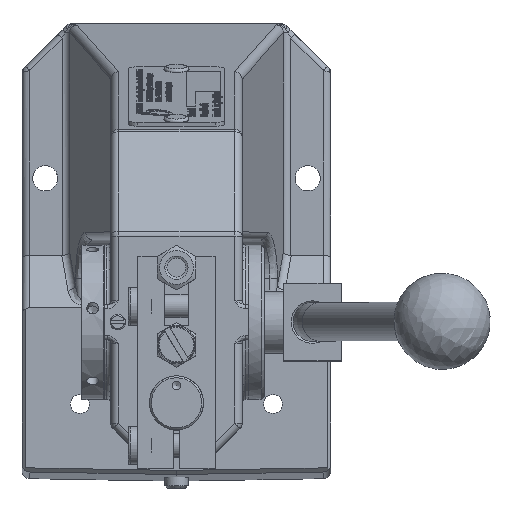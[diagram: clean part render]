
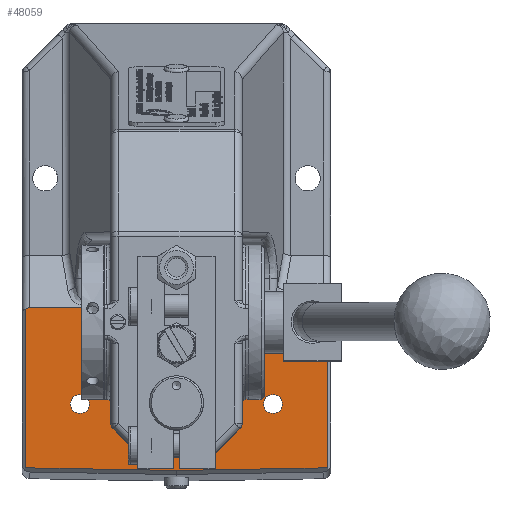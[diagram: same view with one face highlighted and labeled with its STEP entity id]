
A CAD part, top view. The second image highlights one B-rep face of the part: STEP entity #48059.
In plain terms, the highlighted planar face has unit normal (0, 0, 1).
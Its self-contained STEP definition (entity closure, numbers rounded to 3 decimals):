
#176=ELLIPSE('',#49757,3.178,2.);
#200=ELLIPSE('',#49874,3.178,2.);
#7051=LINE('',#85381,#11361);
#7055=LINE('',#85391,#11365);
#7058=LINE('',#85399,#11368);
#7109=LINE('',#86452,#11419);
#7111=LINE('',#86459,#11421);
#11361=VECTOR('',#57276,39.006);
#11365=VECTOR('',#57284,39.006);
#11368=VECTOR('',#57291,40.999);
#11419=VECTOR('',#57580,76.);
#11421=VECTOR('',#57590,40.999);
#12859=PLANE('',#49885);
#13347=FACE_BOUND('',#18523,.T.);
#13348=FACE_BOUND('',#18524,.T.);
#13349=FACE_BOUND('',#18525,.T.);
#15768=FACE_OUTER_BOUND('',#18522,.T.);
#18522=EDGE_LOOP('',(#42417,#42418,#42419,#42420,#42421,#42422,#42423));
#18523=EDGE_LOOP('',(#42424));
#18524=EDGE_LOOP('',(#42425));
#18525=EDGE_LOOP('',(#42426));
#19019=CIRCLE('',#49886,2.459);
#19020=CIRCLE('',#49887,2.459);
#19021=CIRCLE('',#49888,6.);
#23160=VERTEX_POINT('',#85379);
#23161=VERTEX_POINT('',#85380);
#23165=VERTEX_POINT('',#85390);
#23168=VERTEX_POINT('',#85398);
#23171=VERTEX_POINT('',#85406);
#23243=VERTEX_POINT('',#86451);
#23244=VERTEX_POINT('',#86455);
#23251=VERTEX_POINT('',#86477);
#23252=VERTEX_POINT('',#86479);
#23253=VERTEX_POINT('',#86481);
#29552=EDGE_CURVE('',#23160,#23161,#7051,.T.);
#29557=EDGE_CURVE('',#23165,#23160,#7055,.T.);
#29561=EDGE_CURVE('',#23168,#23165,#7058,.T.);
#29565=EDGE_CURVE('',#23171,#23168,#176,.T.);
#29708=EDGE_CURVE('',#23243,#23171,#7109,.T.);
#29710=EDGE_CURVE('',#23244,#23243,#200,.T.);
#29712=EDGE_CURVE('',#23161,#23244,#7111,.T.);
#29720=EDGE_CURVE('',#23251,#23251,#19019,.T.);
#29721=EDGE_CURVE('',#23252,#23252,#19020,.T.);
#29722=EDGE_CURVE('',#23253,#23253,#19021,.T.);
#42417=ORIENTED_EDGE('',*,*,#29565,.F.);
#42418=ORIENTED_EDGE('',*,*,#29708,.F.);
#42419=ORIENTED_EDGE('',*,*,#29710,.F.);
#42420=ORIENTED_EDGE('',*,*,#29712,.F.);
#42421=ORIENTED_EDGE('',*,*,#29552,.F.);
#42422=ORIENTED_EDGE('',*,*,#29557,.F.);
#42423=ORIENTED_EDGE('',*,*,#29561,.F.);
#42424=ORIENTED_EDGE('',*,*,#29720,.T.);
#42425=ORIENTED_EDGE('',*,*,#29721,.T.);
#42426=ORIENTED_EDGE('',*,*,#29722,.T.);
#48059=ADVANCED_FACE('',(#15768,#13347,#13348,#13349),#12859,.F.);
#49757=AXIS2_PLACEMENT_3D('',#85407,#57299,#57300);
#49874=AXIS2_PLACEMENT_3D('',#86456,#57584,#57585);
#49885=AXIS2_PLACEMENT_3D('',#86476,#57609,#57610);
#49886=AXIS2_PLACEMENT_3D('',#86478,#57611,#57612);
#49887=AXIS2_PLACEMENT_3D('',#86480,#57613,#57614);
#49888=AXIS2_PLACEMENT_3D('',#86482,#57615,#57616);
#57276=DIRECTION('',(-1.,0.017,0.));
#57284=DIRECTION('',(-1.,-0.017,0.));
#57291=DIRECTION('',(0.,-1.,0.));
#57299=DIRECTION('center_axis',(0.,0.,-1.));
#57300=DIRECTION('ref_axis',(0.,1.,0.));
#57580=DIRECTION('',(1.,0.,0.));
#57584=DIRECTION('center_axis',(0.,0.,-1.));
#57585=DIRECTION('ref_axis',(0.,1.,0.));
#57590=DIRECTION('',(0.,1.,0.));
#57609=DIRECTION('center_axis',(0.,0.,-1.));
#57610=DIRECTION('ref_axis',(0.,1.,0.));
#57611=DIRECTION('center_axis',(0.,0.,-1.));
#57612=DIRECTION('ref_axis',(1.,0.,0.));
#57613=DIRECTION('center_axis',(0.,0.,-1.));
#57614=DIRECTION('ref_axis',(1.,0.,0.));
#57615=DIRECTION('center_axis',(0.,0.,-1.));
#57616=DIRECTION('ref_axis',(-1.,0.,0.));
#85379=CARTESIAN_POINT('',(-7.474,-54.728,-48.755));
#85380=CARTESIAN_POINT('',(-46.474,-54.045,-48.755));
#85381=CARTESIAN_POINT('',(-17.641,-54.55,-48.755));
#85390=CARTESIAN_POINT('',(31.526,-54.045,-48.755));
#85391=CARTESIAN_POINT('',(-17.303,-54.9,-48.755));
#85398=CARTESIAN_POINT('',(31.526,-13.046,-48.755));
#85399=CARTESIAN_POINT('',(31.526,-45.084,-48.755));
#85406=CARTESIAN_POINT('',(30.526,-12.62,-48.755));
#85407=CARTESIAN_POINT('Origin',(30.526,-15.798,-48.755));
#86451=CARTESIAN_POINT('',(-45.474,-12.62,-48.755));
#86452=CARTESIAN_POINT('',(-7.474,-12.62,-48.755));
#86455=CARTESIAN_POINT('',(-46.474,-13.046,-48.755));
#86456=CARTESIAN_POINT('Origin',(-45.474,-15.798,-48.755));
#86459=CARTESIAN_POINT('',(-46.474,-15.459,-48.755));
#86476=CARTESIAN_POINT('Origin',(-7.474,-62.257,-48.755));
#86477=CARTESIAN_POINT('',(-30.015,-37.526,-48.755));
#86478=CARTESIAN_POINT('Origin',(-32.474,-37.526,-48.755));
#86479=CARTESIAN_POINT('',(19.985,-37.526,-48.755));
#86480=CARTESIAN_POINT('Origin',(17.526,-37.526,-48.755));
#86481=CARTESIAN_POINT('',(-1.474,-37.526,-48.755));
#86482=CARTESIAN_POINT('Origin',(-7.474,-37.526,-48.755));
